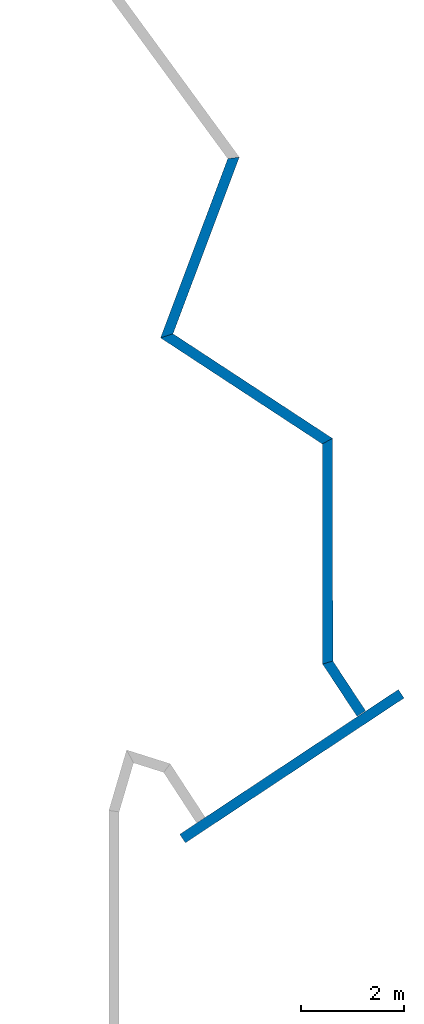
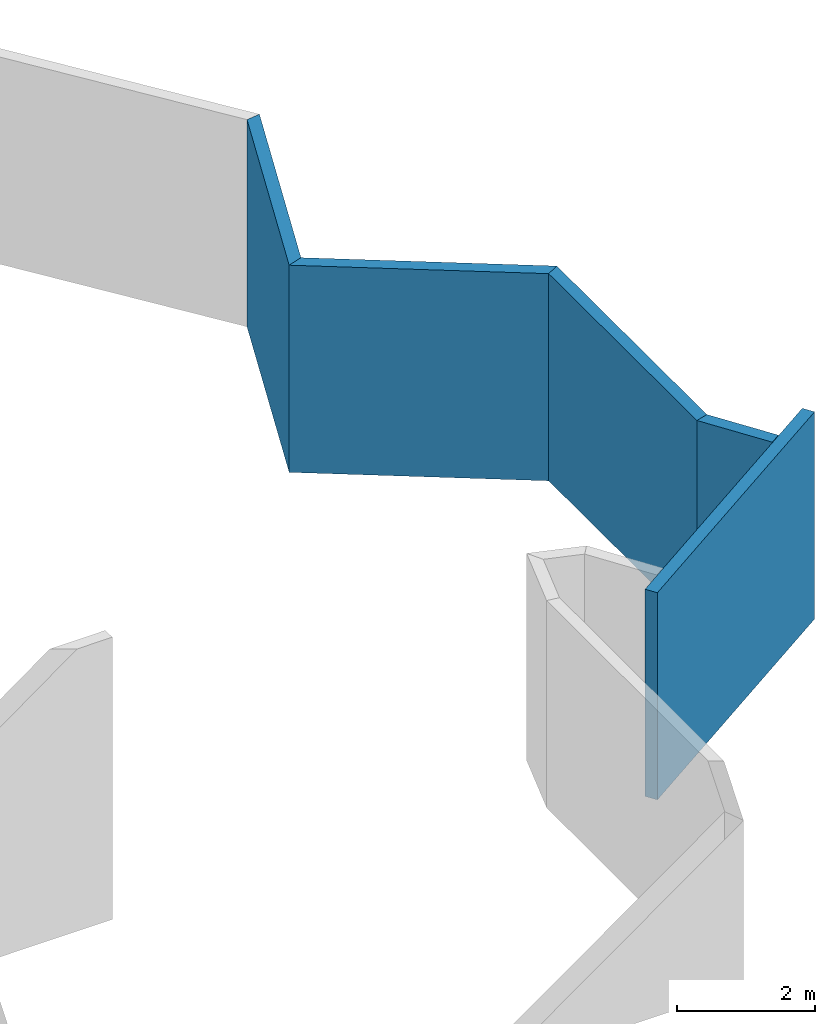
# One storey, part 9 of 9: 5 walls, 2 elements without a shape of their own.
"""IFC2X3 building model written with IfcOpenShell, lengths in millimetres."""

from ifc_helpers import new_model, si_unit, frame, frame_2d, origin_with_axes, place, context, subcontext, project, spatial, rectangle, extrude, clip, halfspace, material, type_object, element, aggregate, save


model = new_model("IFC2X3")

# Units and contexts
model_context = context("Model", 3, precision=1e-05, world=origin_with_axes())
body_context = subcontext(model_context, "Body", "Model", "MODEL_VIEW")
ifc_project = project(units=[si_unit("LENGTHUNIT", "METRE", prefix="MILLI"), si_unit("AREAUNIT", "SQUARE_METRE"), si_unit("VOLUMEUNIT", "CUBIC_METRE"), si_unit("MASSUNIT", "GRAM", prefix="KILO"), si_unit("TIMEUNIT", "SECOND"), si_unit("PLANEANGLEUNIT", "RADIAN"), si_unit("SOLIDANGLEUNIT", "STERADIAN"), si_unit("THERMODYNAMICTEMPERATUREUNIT", "DEGREE_CELSIUS"), si_unit("LUMINOUSINTENSITYUNIT", "LUMEN")], contexts=[model_context])

# Site, building, storey
site_placement = place(None, origin_with_axes())
site = spatial("IfcSite", under=ifc_project, at=site_placement, Name="01_26-05_PRO_BOULAZAC_CMA-FORMATION", CompositionType="ELEMENT")
building_placement = place(site_placement, origin_with_axes())
building = spatial("IfcBuilding", under=site, at=building_placement, Name="Undefined", CompositionType="ELEMENT")
storey_placement = place(building_placement, origin_with_axes())
storey = spatial("IfcBuildingStorey", under=building, at=storey_placement, Name="Undefined", CompositionType="ELEMENT", Elevation=0.0)

# Assembly, walls
assembly_1_placement = place(storey_placement, origin_with_axes())
assembly_1 = element("IfcElementAssembly", 1, at=assembly_1_placement, inside=storey, Name="PANNEAU", AssemblyPlace="NOTDEFINED", PredefinedType="NOTDEFINED")
ifc_material = material(Name="CONCRETE/C25/30")
wall_type = type_object("IfcWallType", Name="3670*200", PredefinedType="NOTDEFINED")
wall_1_placement = place(assembly_1_placement, frame((32048.3995334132, 22502.7230127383, 0.0), z_axis=(0.0, 0.0, 1.0), x_axis=(0.351329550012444, 0.936251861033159, 0.0)))
wall_1 = element("IfcWall", 2, at=wall_1_placement, type_object=wall_type, material=ifc_material, Name="PANNEAU", context=body_context, shape_type="Clipping", body=[
    clip(clip(extrude(rectangle(XDim=4295.72650882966, YDim=200.0, at=frame_2d((0.0, 1773.10264745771), x_axis=(0.0, -1.0))), frame((0.0, 0.0, 0.0), z_axis=(0.0, 0.0, 1.0), x_axis=(0.0, -1.0, 0.0)), (0.0, 0.0, 1.0), 3670.0), halfspace(frame((3680.19462319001, -100.000000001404, 1835.0), z_axis=(0.879886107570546, 0.475184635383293, 0.0), x_axis=(0.0, 0.0, 1.0)), False)), halfspace(frame((7.25995050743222e-08, -100.000000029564, 1835.0), z_axis=(0.780929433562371, 0.624619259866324, 0.0), x_axis=(0.0, 0.0, 1.0)), True)),
])
wall_2_placement = place(assembly_1_placement, frame((35197.5626433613, 20343.9263837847, 0.0), z_axis=(0.0, 0.0, 1.0), x_axis=(-0.836188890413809, 0.54844155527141, 0.0)))
wall_2 = element("IfcWall", 3, at=wall_2_placement, type_object=wall_type, material=ifc_material, Name="PANNEAU", context=body_context, shape_type="Clipping", body=[
    clip(clip(extrude(rectangle(XDim=4787.64315944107, YDim=200.0, at=frame_2d((0.0, 1926.79956504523), x_axis=(0.0, -1.0))), frame((0.0, 0.0, 0.0), z_axis=(0.0, 0.0, 1.0), x_axis=(0.0, -1.0, 0.0)), (0.0, 0.0, 1.0), 3670.0), halfspace(frame((3719.71227437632, -100.00000000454, 1835.0), z_axis=(0.780929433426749, -0.624619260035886, 0.0), x_axis=(0.0, 0.0, 1.0)), False)), halfspace(frame((7.25995050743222e-08, -100.000000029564, 1835.0), z_axis=(0.880262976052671, -0.474486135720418, 0.0), x_axis=(0.0, 0.0, 1.0)), True)),
])
wall_3_placement = place(assembly_1_placement, frame((35159.0788231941, 16085.4688506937, 0.0), z_axis=(0.0, 0.0, 1.0), x_axis=(-0.00153662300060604, 0.99999881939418, 0.0)))
wall_3 = element("IfcWall", 4, at=wall_3_placement, type_object=wall_type, material=ifc_material, Name="PANNEAU", context=body_context, shape_type="Clipping", body=[
    clip(clip(extrude(rectangle(XDim=4689.16388933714, YDim=200.0, at=frame_2d((0.0, 2129.08071774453), x_axis=(0.0, -1.0))), frame((0.0, 0.0, 0.0), z_axis=(0.0, 0.0, 1.0), x_axis=(0.0, -1.0, 0.0)), (0.0, 0.0, 1.0), 3670.0), halfspace(frame((4341.92788593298, -100.000000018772, 1835.0), z_axis=(0.880262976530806, 0.474486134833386, 0.0), x_axis=(0.0, 0.0, 1.0)), False)), halfspace(frame((7.25995050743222e-08, -100.000000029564, 1835.0), z_axis=(0.958185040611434, 0.28614931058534, 0.0), x_axis=(0.0, 0.0, 1.0)), True)),
])
wall_4_placement = place(assembly_1_placement, frame((35814.8406527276, 15059.0100190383, 0.0), z_axis=(0.0, 0.0, 1.0), x_axis=(-0.549652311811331, 0.835393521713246, 0.0)))
wall_4 = element("IfcWall", 5, at=wall_4_placement, type_object=wall_type, material=ifc_material, Name="PANNEAU", context=body_context, shape_type="Clipping", body=[
    clip(extrude(rectangle(XDim=1571.03803188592, YDim=200.0, at=frame_2d((0.0, 785.519015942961), x_axis=(0.0, -1.0))), frame((0.0, 0.0, 0.0), z_axis=(0.0, 0.0, 1.0), x_axis=(0.0, -1.0, 0.0)), (0.0, 0.0, 1.0), 3670.0), halfspace(frame((1163.10126606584, -99.9999999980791, 1835.0), z_axis=(0.958185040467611, -0.286149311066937, 0.0), x_axis=(0.0, 0.0, 1.0)), False)),
])
aggregate(assembly_1, [wall_1, wall_2, wall_3, wall_4])

# Assembly, wall
assembly_2_placement = place(storey_placement, origin_with_axes())
assembly_2 = element("IfcElementAssembly", 6, at=assembly_2_placement, inside=storey, Name="PANNEAU", AssemblyPlace="NOTDEFINED", PredefinedType="NOTDEFINED")
wall_5_placement = place(assembly_2_placement, frame((32327.6173288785, 12622.043802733, 0.0), z_axis=(0.0, 0.0, 1.0), x_axis=(0.83380213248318, 0.552063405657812, 0.0)))
wall_5 = element("IfcWallStandardCase", 7, at=wall_5_placement, type_object=wall_type, material=ifc_material, Name="PANNEAU", context=body_context, shape_type="SweptSolid", body=[
    extrude(rectangle(XDim=5114.09232032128, YDim=200.0, at=frame_2d((0.0, 2557.04616016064), x_axis=(0.0, -1.0))), frame((0.0, 0.0, 0.0), z_axis=(0.0, 0.0, 1.0), x_axis=(0.0, -1.0, 0.0)), (0.0, 0.0, 1.0), 3670.0),
])
aggregate(assembly_2, [wall_5])

save(model, "model.ifc")
